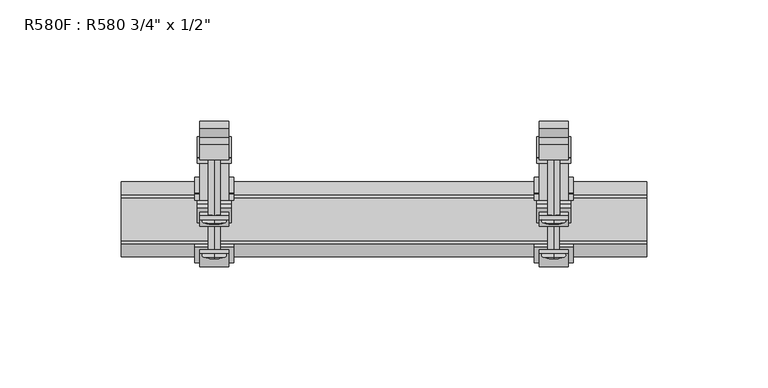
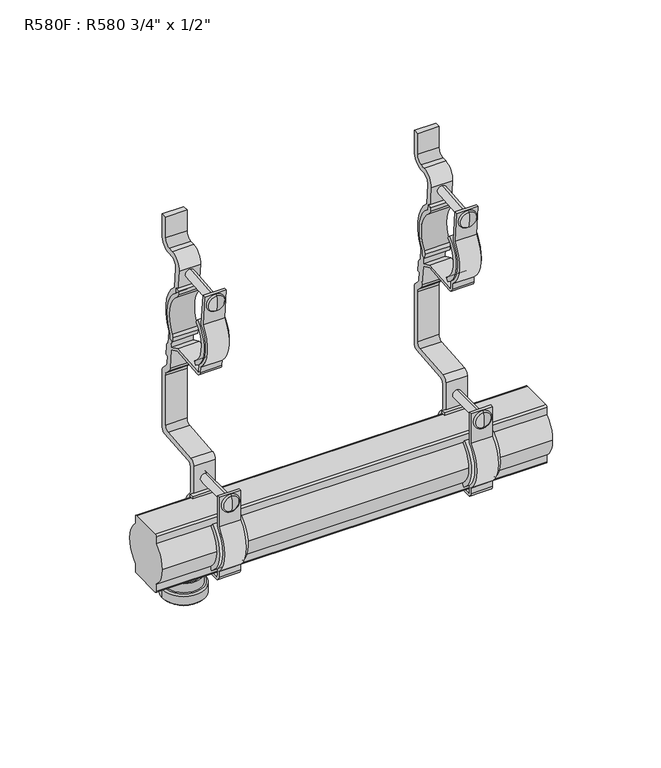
"""IFC4 building model written with IfcOpenShell, lengths in millimetres: proxy geometry."""

from ifc_helpers import new_model, si_unit, point, frame, frame_2d, origin, place, context, project, spatial, polyline, circle_curve, ellipse_curve, trimmed, segment, composite_curve, outline, extrude, source, transform, mapped, element, save
from ifc_brep_helpers import plane_surface, cylinder_surface, revolved_surface, advanced_brep


def proxy_4e90085c(model_context):
    return source(origin(), model_context, "Body", "SolidModel", [
        extrude(outline(composite_curve([segment(trimmed(circle_curve(frame_2d((-6.9879586, 204.5629312)), 6.9879586), [point((0.0, 204.5629312))], [point((-6.535493, 197.5896363))], False, "CARTESIAN"), True, "CONTINUOUS"), segment(polyline([(-6.535493, 197.5896363), (-9.1616314, 197.419238)]), True, "CONTINUOUS"), segment(trimmed(circle_curve(frame_2d((-8.8902256, 193.2363952)), 4.1916388), [point((-9.1616314, 197.419238))], [point((-13.0659051, 192.8709684))], True, "CARTESIAN"), True, "CONTINUOUS"), segment(polyline([(-13.0659051, 192.8709684), (-12.0275494, 181.0058252)]), True, "CONTINUOUS"), segment(trimmed(circle_curve(frame_2d((-26.7255965, 163.0222089)), 23.2259131), [point((-12.0275494, 181.0058252))], [point((-6.4338194, 151.7223495))], False, "CARTESIAN"), True, "CONTINUOUS"), segment(polyline([(-6.4338194, 151.7223495), (-5.7651578, 144.078057)]), True, "CONTINUOUS"), segment(trimmed(circle_curve(frame_2d((-6.6108887, 141.6599746)), 2.5617149), [point((-5.7651578, 144.078057))], [point((-4.0589183, 141.8832006))], False, "CARTESIAN"), True, "CONTINUOUS"), segment(polyline([(-4.0589183, 141.8832006), (-3.5825237, 136.4369491), (-5.0852766, 136.3055003), (-4.7104793, 132.0207317)]), True, "CONTINUOUS"), segment(trimmed(circle_curve(frame_2d((-1.5015536, 132.3014229)), 3.2211785), [point((-4.7104793, 132.0207317))], [point((-3.7792686, 130.0237034))], True, "CARTESIAN"), True, "CONTINUOUS"), segment(polyline([(-3.7792686, 130.0237034), (-0.7460042, 126.990445)]), True, "CONTINUOUS"), segment(trimmed(circle_curve(frame_2d((-2.5470116, 125.189434)), 2.5470116), [point((-0.7460042, 126.990445))], [point((0.0, 125.189434))], False, "CARTESIAN"), True, "CONTINUOUS"), segment(polyline([(0.0, 125.189434), (0.0, 91.7002427)]), True, "CONTINUOUS"), segment(trimmed(circle_curve(frame_2d((-2.7586202, 91.7002427)), 2.7586202), [point((0.0, 91.7002427))], [point((-2.5181898, 88.95212))], False, "CARTESIAN"), True, "CONTINUOUS"), segment(polyline([(-2.5181898, 88.95212), (-24.789201, 87.0036529)]), True, "CONTINUOUS"), segment(trimmed(circle_curve(frame_2d((-24.5318395, 84.0620069)), 2.9528827), [point((-24.789201, 87.0036529))], [point((-27.4847222, 84.0620069))], True, "CARTESIAN"), True, "CONTINUOUS"), segment(polyline([(-27.4847222, 84.0620069), (-27.4847222, 69.8127523)]), True, "CONTINUOUS"), segment(trimmed(circle_curve(frame_2d((-43.7833112, 52.8226819)), 23.5437146), [point((-27.4847222, 69.8127523))], [point((-24.0486111, 39.9833631))], False, "CARTESIAN"), True, "CONTINUOUS"), segment(polyline([(-24.0486111, 39.9833631), (-24.0486111, 32.0805444)]), True, "CONTINUOUS"), segment(trimmed(circle_curve(frame_2d((-25.1182348, 29.7387292)), 2.5745278), [point((-24.0486111, 32.0805444))], [point((-22.543707, 29.7387292))], False, "CARTESIAN"), True, "CONTINUOUS"), segment(polyline([(-22.543707, 29.7387292), (-22.543707, 24.2798441), (-24.0486111, 24.2798441)]), True, "CONTINUOUS"), segment(trimmed(circle_curve(frame_2d((-20.0761281, 24.2798441)), 3.972483), [point((-24.0486111, 24.2798441))], [point((-20.4220576, 20.3224518))], True, "CARTESIAN"), True, "CONTINUOUS"), segment(polyline([(-20.4220576, 20.3224518), (-6.318552, 19.0896151)]), True, "CONTINUOUS"), segment(trimmed(circle_curve(frame_2d((-6.9212656, 12.1946421)), 6.9212656), [point((-6.318552, 19.0896151))], [point((0.0, 12.1946421))], False, "CARTESIAN"), True, "CONTINUOUS"), segment(polyline([(0.0, 12.1946421), (0.0, 0.0), (-3.0055556, 0.0), (-3.0055556, 12.0395913)]), True, "CONTINUOUS"), segment(trimmed(circle_curve(frame_2d((-7.0901342, 12.0395913)), 4.0845787), [point((-3.0055556, 12.0395913))], [point((-6.7346171, 16.1086687))], True, "CARTESIAN"), True, "CONTINUOUS"), segment(polyline([(-6.7346171, 16.1086687), (-20.8046731, 17.3379757)]), True, "CONTINUOUS"), segment(trimmed(circle_curve(frame_2d((-20.1899309, 24.3740184)), 7.0628469), [point((-20.8046731, 17.3379757))], [point((-27.2527778, 24.3740184))], False, "CARTESIAN"), True, "CONTINUOUS"), segment(polyline([(-27.2527778, 24.3740184), (-27.2527778, 30.3859183), (-33.1679033, 33.7985986), (-51.9876627, 33.7985986)]), True, "CONTINUOUS"), segment(trimmed(circle_curve(frame_2d((-51.9876627, 36.4192679)), 2.6206693), [point((-51.9876627, 33.7985986))], [point((-54.6083319, 36.4192679))], False, "CARTESIAN"), True, "CONTINUOUS"), segment(polyline([(-54.6083319, 36.4192679), (-54.6083319, 39.6866429)]), True, "CONTINUOUS"), segment(trimmed(circle_curve(frame_2d((-41.7461087, 52.8038888)), 18.3711438), [point((-54.6083319, 39.6866429))], [point((-54.6083319, 65.9211347))], False, "CARTESIAN"), True, "CONTINUOUS"), segment(polyline([(-54.6083319, 65.9211347), (-54.6083319, 83.3749875), (-53.1055542, 83.3749875), (-53.1055542, 65.3949594)]), True, "CONTINUOUS"), segment(trimmed(circle_curve(frame_2d((-41.3574689, 52.8038888)), 17.2207017), [point((-53.1055542, 65.3949594))], [point((-53.1055542, 40.2128181))], True, "CARTESIAN"), True, "CONTINUOUS"), segment(polyline([(-53.1055542, 40.2128181), (-53.1055542, 36.4458128)]), True, "CONTINUOUS"), segment(trimmed(circle_curve(frame_2d((-51.9597414, 36.4458128)), 1.1458128), [point((-53.1055542, 36.4458128))], [point((-51.9597414, 35.3))], True, "CARTESIAN"), True, "CONTINUOUS"), segment(polyline([(-51.9597414, 35.3), (-32.7650242, 35.3), (-27.2527778, 32.1197572), (-27.2527778, 40.7465527)]), True, "CONTINUOUS"), segment(trimmed(circle_curve(frame_2d((-43.4814095, 52.8363738)), 20.2369035), [point((-27.2527778, 40.7465527))], [point((-30.2583333, 68.155725))], True, "CARTESIAN"), True, "CONTINUOUS"), segment(polyline([(-30.2583333, 68.155725), (-30.2583333, 86.7608471)]), True, "CONTINUOUS"), segment(trimmed(circle_curve(frame_2d((-27.2222702, 86.7608471)), 3.0360631), [point((-30.2583333, 86.7608471))], [point((-27.4867903, 89.785365))], False, "CARTESIAN"), True, "CONTINUOUS"), segment(polyline([(-27.4867903, 89.785365), (-5.5546672, 91.7035179)]), True, "CONTINUOUS"), segment(trimmed(circle_curve(frame_2d((-5.7979581, 94.4853018)), 2.7924026), [point((-5.5546672, 91.7035179))], [point((-3.0055556, 94.4853018))], True, "CARTESIAN"), True, "CONTINUOUS"), segment(polyline([(-3.0055556, 94.4853018), (-3.0055556, 123.7752725)]), True, "CONTINUOUS"), segment(trimmed(circle_curve(frame_2d((-5.9589259, 123.7752725)), 2.9533703), [point((-3.0055556, 123.7752725))], [point((-3.8705756, 125.8636186))], True, "CARTESIAN"), True, "CONTINUOUS"), segment(polyline([(-3.8705756, 125.8636186), (-6.6886958, 128.6817443)]), True, "CONTINUOUS"), segment(trimmed(circle_curve(frame_2d((-4.3945951, 130.9758406)), 3.2443452), [point((-6.6886958, 128.6817443))], [point((-7.6265958, 130.6930906))], False, "CARTESIAN"), True, "CONTINUOUS"), segment(polyline([(-7.6265958, 130.6930906), (-8.6174181, 142.0187791), (-14.9952465, 144.9926054), (-33.7906951, 143.34888)]), True, "CONTINUOUS"), segment(trimmed(circle_curve(frame_2d((-34.0157037, 145.9217782)), 2.5827184), [point((-33.7906951, 143.34888))], [point((-36.5885872, 145.6966013))], False, "CARTESIAN"), True, "CONTINUOUS"), segment(polyline([(-36.5885872, 145.6966013), (-36.8737941, 148.9553907)]), True, "CONTINUOUS"), segment(trimmed(circle_curve(frame_2d((-24.8820369, 163.2396515)), 18.6505321), [point((-36.8737941, 148.9553907))], [point((-39.1667816, 175.2308323))], False, "CARTESIAN"), True, "CONTINUOUS"), segment(polyline([(-39.1667816, 175.2308323), (-40.6790521, 192.514192), (-39.1817277, 192.6452058), (-37.6135439, 174.7208888)]), True, "CONTINUOUS"), segment(trimmed(circle_curve(frame_2d((-24.8569829, 163.1914252)), 17.1947195), [point((-37.6135439, 174.7208888))], [point((-35.4138424, 149.6189863))], True, "CARTESIAN"), True, "CONTINUOUS"), segment(polyline([(-35.4138424, 149.6189863), (-35.0864482, 145.8341692)]), True, "CONTINUOUS"), segment(trimmed(circle_curve(frame_2d((-34.0056853, 145.9276573)), 1.0847988), [point((-35.0864482, 145.8341692))], [point((-33.911106, 144.8469894))], True, "CARTESIAN"), True, "CONTINUOUS"), segment(polyline([(-33.911106, 144.8469894), (-14.6888357, 146.5293087), (-8.7706037, 143.769781), (-9.5393713, 152.5572516)]), True, "CONTINUOUS"), segment(trimmed(circle_curve(frame_2d((-26.6434336, 163.2197176)), 20.155325), [point((-9.5393713, 152.5572516))], [point((-14.9229936, 179.616925))], True, "CARTESIAN"), True, "CONTINUOUS"), segment(polyline([(-14.9229936, 179.616925), (-16.0683895, 192.692549)]), True, "CONTINUOUS"), segment(trimmed(circle_curve(frame_2d((-9.0001363, 193.3117124)), 7.0953201), [point((-16.0683895, 192.692549))], [point((-9.5177053, 200.3881303))], False, "CARTESIAN"), True, "CONTINUOUS"), segment(polyline([(-9.5177053, 200.3881303), (-6.606157, 200.6010809)]), True, "CONTINUOUS"), segment(trimmed(circle_curve(frame_2d((-6.8894696, 204.4746479)), 3.883914), [point((-6.606157, 200.6010809))], [point((-3.0055556, 204.4746479))], True, "CARTESIAN"), True, "CONTINUOUS"), segment(polyline([(-3.0055556, 204.4746479), (-3.0055556, 216.7194361), (0.0, 216.7194361), (0.0, 204.5629312)]), True, "CONTINUOUS")], self_intersect=False)), frame((151.7, 0.0, 0.0), z_axis=(1.0, 0.0, 0.0), x_axis=(0.0, 1.0, 0.0)), (0.0, 0.0, 1.0), 12.0),
        advanced_brep(
        [(157.7, -8.1607243, 187.8478573), (157.7, -8.594888, 192.8098059), (157.7, -8.3778062, 190.3288316), (157.7, -40.0267871, 185.0596201), (157.7, -40.4609509, 190.0215687), (157.7, -39.8348107, 182.8655697), (157.7, -40.6529273, 192.2156191), (157.7, -41.3968672, 182.7288919), (157.7, -42.2149839, 192.0789412), (157.7, -42.5174833, 187.3416562)],
        [
            (0, 1, circle_curve(frame((157.7, -8.3778062, 190.3288316), z_axis=(0.0, 0.9961938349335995, 0.08716560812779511), x_axis=(0.0, -0.08716560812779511, 0.9961938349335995)), 2.4904534)),
            (1, 2),
            (2, 0),
            (1, 0, circle_curve(frame((157.7, -8.3778062, 190.3288316), z_axis=(0.0, 0.9961938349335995, 0.08716560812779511), x_axis=(0.0, -0.08716560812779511, 0.9961938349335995)), 2.4904534)),
            (3, 4, circle_curve(frame((157.7, -40.243869, 187.5405944), z_axis=(0.0, 0.9961938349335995, 0.08716560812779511), x_axis=(0.0, -0.08716560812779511, 0.9961938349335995)), 2.4904534)),
            (4, 1),
            (0, 3),
            (4, 3, circle_curve(frame((157.7, -40.243869, 187.5405944), z_axis=(0.0, 0.9961938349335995, 0.08716560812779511), x_axis=(0.0, -0.08716560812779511, 0.9961938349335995)), 2.4904534)),
            (5, 6, circle_curve(frame((157.7, -40.243869, 187.5405944), z_axis=(0.0, 0.9961938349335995, 0.08716560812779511), x_axis=(0.0, -0.08716560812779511, 0.9961938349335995)), 4.6928866)),
            (6, 4),
            (3, 5),
            (6, 5, circle_curve(frame((157.7, -40.243869, 187.5405944), z_axis=(0.0, 0.9961938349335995, 0.08716560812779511), x_axis=(0.0, -0.08716560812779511, 0.9961938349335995)), 4.6928866)),
            (7, 8, circle_curve(frame((157.7, -41.8059255, 187.4039166), z_axis=(0.0, 0.9961938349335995, 0.08716560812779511), x_axis=(0.0, -0.08716560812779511, 0.9961938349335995)), 4.6928866)),
            (8, 6, circle_curve(frame((157.7, -41.3687132, 191.4016409), z_axis=(-1.0, 0.0, 0.0), x_axis=(0.0, 1.0, 0.0)), 1.0839326)),
            (5, 7, circle_curve(frame((157.7, -40.6810814, 183.5428701), z_axis=(-1.0, 0.0, 0.0), x_axis=(0.0, 0.9848043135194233, 0.17366768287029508)), 1.0839326)),
            (8, 7, circle_curve(frame((157.7, -41.8059255, 187.4039166), z_axis=(0.0, 0.9961938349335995, 0.08716560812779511), x_axis=(0.0, -0.08716560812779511, 0.9961938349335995)), 4.6928866)),
            (9, 8, circle_curve(frame((157.7, -33.7302276, 189.1588465), z_axis=(-1.0, 0.0, 0.0), x_axis=(0.0, 1.0, 0.0)), 8.9731847)),
            (7, 9, circle_curve(frame((157.7, -33.5481687, 187.0781418), z_axis=(-1.0, 0.0, 0.0), x_axis=(0.0, 0.9848043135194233, 0.17366768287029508)), 8.9731847)),
        ],
        [
            plane_surface(frame((157.7, -8.3778062, 190.3288316), z_axis=(0.0, 0.9961938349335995, 0.08716560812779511), x_axis=(0.0, -0.08716560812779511, 0.9961938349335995))),
            cylinder_surface(frame((157.7, -42.5174833, 187.3416562), z_axis=(0.0, -0.9961938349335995, -0.08716560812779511), x_axis=(0.0, -0.08716560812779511, 0.9961938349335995)), 2.4904534),
            plane_surface(frame((157.7, -40.243869, 187.5405944), z_axis=(0.0, 0.9961938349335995, 0.08716560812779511), x_axis=(0.0, -0.08716560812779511, 0.9961938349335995))),
            revolved_surface(trimmed(ellipse_curve(frame((157.7, -41.3687132, 191.4016409), z_axis=(1.0, 0.0, 0.0), x_axis=(0.0, 1.0, 0.0)), 1.0839326, 1.0839326), [point((157.7, -40.6529273, 192.2156191))], [point((157.7, -42.2149839, 192.0789412))], True, "CARTESIAN"), (157.7, -42.5174833, 187.3416562), (0.0, -0.9961938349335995, -0.08716560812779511)),
            revolved_surface(trimmed(ellipse_curve(frame((157.7, -33.7302276, 189.1588465), z_axis=(1.0, 0.0, 0.0), x_axis=(0.0, 1.0, 0.0)), 8.9731847, 8.9731847), [point((157.7, -42.2149839, 192.0789412))], [point((157.7, -42.5174833, 187.3416562))], True, "CARTESIAN"), (157.7, -42.5174833, 187.3416562), (0.0, -0.9961938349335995, -0.08716560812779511)),
        ],
        [
            (0, [[1, 2, 3]]),
            (0, [[4, -3, -2]]),
            (1, [[5, 6, -1, 7]]),
            (1, [[8, -7, -4, -6]]),
            (2, [[9, 10, -5, 11]]),
            (2, [[12, -11, -8, -10]]),
            (3, [[13, 14, -9, 15]]),
            (3, [[16, -15, -12, -14]]),
            (4, [[17, -13, 18]]),
            (4, [[-18, -16, -17]]),
        ],
    ),
        advanced_brep(
        [(157.7, -22.5663136, 75.9783108), (157.7, -22.5663136, 80.7883475), (157.7, -22.5663136, 78.3833292), (157.7, -54.6083319, 75.9783108), (157.7, -54.6083319, 80.7883475), (157.7, -54.6083319, 73.9756889), (157.7, -54.6083319, 82.7909695), (157.7, -56.172824, 73.9756889), (157.7, -56.172824, 82.7909695), (157.7, -56.8709256, 78.3833292)],
        [
            (0, 1, circle_curve(frame((157.7, -22.5663136, 78.3833292), z_axis=(0.0, 1.0, 0.0), x_axis=(0.0, 0.0, 1.0)), 2.4050184)),
            (1, 2),
            (2, 0),
            (1, 0, circle_curve(frame((157.7, -22.5663136, 78.3833292), z_axis=(0.0, 1.0, 0.0), x_axis=(0.0, 0.0, 1.0)), 2.4050184)),
            (3, 4, circle_curve(frame((157.7, -54.6083319, 78.3833292), z_axis=(0.0, 1.0, 0.0), x_axis=(0.0, 0.0, 1.0)), 2.4050184)),
            (4, 1),
            (0, 3),
            (4, 3, circle_curve(frame((157.7, -54.6083319, 78.3833292), z_axis=(0.0, 1.0, 0.0), x_axis=(0.0, 0.0, 1.0)), 2.4050184)),
            (5, 6, circle_curve(frame((157.7, -54.6083319, 78.3833292), z_axis=(0.0, 1.0, 0.0), x_axis=(0.0, 0.0, 1.0)), 4.4076403)),
            (6, 4),
            (3, 5),
            (6, 5, circle_curve(frame((157.7, -54.6083319, 78.3833292), z_axis=(0.0, 1.0, 0.0), x_axis=(0.0, 0.0, 1.0)), 4.4076403)),
            (7, 8, circle_curve(frame((157.7, -56.172824, 78.3833292), z_axis=(0.0, 1.0, 0.0), x_axis=(0.0, 0.0, 1.0)), 4.4076403)),
            (8, 6, circle_curve(frame((157.7, -55.390578, 82.5376382), z_axis=(-1.0, 0.0, 0.0), x_axis=(0.0, 1.0, 0.0)), 0.8222442)),
            (5, 7, circle_curve(frame((157.7, -55.390578, 74.2290201), z_axis=(-1.0, 0.0, 0.0), x_axis=(0.0, 1.0, 0.0)), 0.8222442)),
            (8, 7, circle_curve(frame((157.7, -56.172824, 78.3833292), z_axis=(0.0, 1.0, 0.0), x_axis=(0.0, 0.0, 1.0)), 4.4076403)),
            (9, 8, circle_curve(frame((157.7, -42.5198982, 78.3694541), z_axis=(-1.0, 0.0, 0.0), x_axis=(0.0, 1.0, 0.0)), 14.3510341)),
            (7, 9, circle_curve(frame((157.7, -42.5198982, 78.3972042), z_axis=(-1.0, 0.0, 0.0), x_axis=(0.0, 1.0, 0.0)), 14.3510341)),
        ],
        [
            plane_surface(frame((157.7, -22.5663136, 78.3833292), z_axis=(0.0, 1.0, 0.0), x_axis=(0.0, 0.0, 1.0))),
            cylinder_surface(frame((157.7, -57.182419, 78.3833292), z_axis=(0.0, -1.0, 0.0), x_axis=(0.0, 0.0, 1.0)), 2.4050184),
            plane_surface(frame((157.7, -54.6083319, 78.3833292), z_axis=(0.0, 1.0, 0.0), x_axis=(0.0, 0.0, 1.0))),
            revolved_surface(trimmed(ellipse_curve(frame((157.7, -55.390578, 82.5376382), z_axis=(1.0, 0.0, 0.0), x_axis=(0.0, 1.0, 0.0)), 0.8222442, 0.8222442), [point((157.7, -54.6083319, 82.7909695))], [point((157.7, -56.172824, 82.7909695))], True, "CARTESIAN"), (157.7, -57.182419, 78.3833292), (0.0, -1.0, 0.0)),
            revolved_surface(trimmed(ellipse_curve(frame((157.7, -42.5198982, 78.3694541), z_axis=(1.0, 0.0, 0.0), x_axis=(0.0, 1.0, 0.0)), 14.3510341, 14.3510341), [point((157.7, -56.172824, 82.7909695))], [point((157.7, -56.8709256, 78.3833292))], True, "CARTESIAN"), (157.7, -57.182419, 78.3833292), (0.0, -1.0, 0.0)),
        ],
        [
            (0, [[1, 2, 3]]),
            (0, [[4, -3, -2]]),
            (1, [[5, 6, -1, 7]]),
            (1, [[8, -7, -4, -6]]),
            (2, [[9, 10, -5, 11]]),
            (2, [[12, -11, -8, -10]]),
            (3, [[13, 14, -9, 15]]),
            (3, [[16, -15, -12, -14]]),
            (4, [[17, -13, 18]]),
            (4, [[-18, -16, -17]]),
        ],
    ),
        extrude(outline(composite_curve([segment(polyline([(-49.7837445, 40.6617165), (-51.109565, 38.7158506)]), True, "CONTINUOUS"), segment(trimmed(circle_curve(frame_2d((-41.4924197, 52.8367565)), 17.084773), [point((-51.109565, 38.7158506))], [point((-51.8694125, 66.4090624))], False, "CARTESIAN"), True, "CONTINUOUS"), segment(polyline([(-51.8694125, 66.4090624), (-50.4393, 64.5394956)]), True, "CONTINUOUS"), segment(trimmed(circle_curve(frame_2d((-41.4878354, 52.8373662)), 14.7332465), [point((-50.4393, 64.5394956))], [point((-49.7837445, 40.6617165))], True, "CARTESIAN"), True, "CONTINUOUS")], self_intersect=False)), frame((149.7, 0.0, 0.0), z_axis=(1.0, 0.0, 0.0), x_axis=(0.0, 1.0, 0.0)), (0.0, 0.0, 1.0), 16.0),
        extrude(outline(composite_curve([segment(trimmed(circle_curve(frame_2d((-25.3074567, 39.8932689)), 2.0748989), [point((-26.9975539, 41.0969204))], [point((-27.3823556, 39.8932689))], True, "CARTESIAN"), True, "CONTINUOUS"), segment(polyline([(-27.3823556, 39.8932689), (-27.3823556, 37.5825553), (-29.7379111, 37.5825553), (-29.7379111, 39.9273542)]), True, "CONTINUOUS"), segment(trimmed(circle_curve(frame_2d((-27.0268933, 39.9273542)), 2.7110178), [point((-29.7379111, 39.9273542))], [point((-29.0412843, 41.7416989))], False, "CARTESIAN"), True, "CONTINUOUS"), segment(trimmed(circle_curve(frame_2d((-43.6122723, 52.8887451)), 18.3458532), [point((-29.0412843, 41.7416989))], [point((-31.8255932, 66.9473554))], True, "CARTESIAN"), True, "CONTINUOUS"), segment(trimmed(circle_curve(frame_2d((-30.4108016, 68.634854)), 2.2021096), [point((-31.8255932, 66.9473554))], [point((-32.6129111, 68.634854))], False, "CARTESIAN"), True, "CONTINUOUS"), segment(polyline([(-32.6129111, 68.634854), (-32.6129111, 71.1464456), (-30.2583333, 71.1464456), (-30.2583333, 69.1297192)]), True, "CONTINUOUS"), segment(trimmed(circle_curve(frame_2d((-28.0633419, 69.1297192)), 2.1949914), [point((-30.2583333, 69.1297192))], [point((-29.5720208, 67.5353931))], True, "CARTESIAN"), True, "CONTINUOUS"), segment(trimmed(circle_curve(frame_2d((-43.4814095, 52.8363738)), 20.2369035), [point((-29.5720208, 67.5353931))], [point((-26.9975539, 41.0969204))], False, "CARTESIAN"), True, "CONTINUOUS")], self_intersect=False)), frame((149.7, 0.0, 0.0), z_axis=(1.0, 0.0, 0.0), x_axis=(0.0, 1.0, 0.0)), (0.0, 0.0, 1.0), 16.0),
        extrude(outline(composite_curve([segment(polyline([(-32.8462445, 150.7908873), (-34.1020296, 148.8017664)]), True, "CONTINUOUS"), segment(trimmed(circle_curve(frame_2d((-24.9960648, 163.2253041)), 17.0574627), [point((-34.1020296, 148.8017664))], [point((-35.7752816, 176.4451951))], False, "CARTESIAN"), True, "CONTINUOUS"), segment(polyline([(-35.7752816, 176.4451951), (-34.2726334, 174.6353303)]), True, "CONTINUOUS"), segment(trimmed(circle_curve(frame_2d((-24.8087698, 163.2365791)), 14.8154056), [point((-34.2726334, 174.6353303))], [point((-32.8462445, 150.7908873))], True, "CARTESIAN"), True, "CONTINUOUS")], self_intersect=False)), frame((150.7, 0.0, 0.0), z_axis=(1.0, 0.0, 0.0), x_axis=(0.0, 1.0, 0.0)), (0.0, 0.0, 1.0), 14.0),
        extrude(outline(composite_curve([segment(polyline([(-9.5393713, 152.5572516), (-9.3737381, 149.3967813), (-11.744171, 149.1893953), (-11.9389044, 151.4152075)]), True, "CONTINUOUS"), segment(trimmed(circle_curve(frame_2d((-8.8230465, 151.6878097)), 3.1277599), [point((-11.9389044, 151.4152075))], [point((-11.4382785, 153.4034565))], False, "CARTESIAN"), True, "CONTINUOUS"), segment(trimmed(circle_curve(frame_2d((-26.4786219, 163.2702359)), 17.98792), [point((-11.4382785, 153.4034565))], [point((-16.1230463, 177.9783058))], True, "CARTESIAN"), True, "CONTINUOUS"), segment(trimmed(circle_curve(frame_2d((-14.4859563, 180.303472)), 2.8436704), [point((-16.1230463, 177.9783058))], [point((-17.3187789, 180.0553229))], False, "CARTESIAN"), True, "CONTINUOUS"), segment(polyline([(-17.3187789, 180.0553229), (-17.522158, 182.3770604), (-15.1827267, 182.5819895), (-14.9229936, 179.616925)]), True, "CONTINUOUS"), segment(trimmed(circle_curve(frame_2d((-26.6434336, 163.2197176)), 20.155325), [point((-14.9229936, 179.616925))], [point((-9.5393713, 152.5572516))], False, "CARTESIAN"), True, "CONTINUOUS")], self_intersect=False)), frame((150.7, 0.0, 0.0), z_axis=(1.0, 0.0, 0.0), x_axis=(0.0, 1.0, 0.0)), (0.0, 0.0, 1.0), 14.0),
        extrude(outline(composite_curve([segment(trimmed(circle_curve(frame_2d((-6.9879586, 204.5629312)), 6.9879586), [point((0.0, 204.5629312))], [point((-6.535493, 197.5896363))], False, "CARTESIAN"), True, "CONTINUOUS"), segment(polyline([(-6.535493, 197.5896363), (-9.1616314, 197.419238)]), True, "CONTINUOUS"), segment(trimmed(circle_curve(frame_2d((-8.8902256, 193.2363952)), 4.1916388), [point((-9.1616314, 197.419238))], [point((-13.0659051, 192.8709684))], True, "CARTESIAN"), True, "CONTINUOUS"), segment(polyline([(-13.0659051, 192.8709684), (-12.0275494, 181.0058252)]), True, "CONTINUOUS"), segment(trimmed(circle_curve(frame_2d((-26.7255965, 163.0222089)), 23.2259131), [point((-12.0275494, 181.0058252))], [point((-6.4338194, 151.7223495))], False, "CARTESIAN"), True, "CONTINUOUS"), segment(polyline([(-6.4338194, 151.7223495), (-5.7651578, 144.078057)]), True, "CONTINUOUS"), segment(trimmed(circle_curve(frame_2d((-6.6108887, 141.6599746)), 2.5617149), [point((-5.7651578, 144.078057))], [point((-4.0589183, 141.8832006))], False, "CARTESIAN"), True, "CONTINUOUS"), segment(polyline([(-4.0589183, 141.8832006), (-3.5825237, 136.4369491), (-5.0852766, 136.3055003), (-4.7104793, 132.0207317)]), True, "CONTINUOUS"), segment(trimmed(circle_curve(frame_2d((-1.5015536, 132.3014229)), 3.2211785), [point((-4.7104793, 132.0207317))], [point((-3.7792686, 130.0237034))], True, "CARTESIAN"), True, "CONTINUOUS"), segment(polyline([(-3.7792686, 130.0237034), (-0.7460042, 126.990445)]), True, "CONTINUOUS"), segment(trimmed(circle_curve(frame_2d((-2.5470116, 125.189434)), 2.5470116), [point((-0.7460042, 126.990445))], [point((0.0, 125.189434))], False, "CARTESIAN"), True, "CONTINUOUS"), segment(polyline([(0.0, 125.189434), (0.0, 91.7002427)]), True, "CONTINUOUS"), segment(trimmed(circle_curve(frame_2d((-2.7586202, 91.7002427)), 2.7586202), [point((0.0, 91.7002427))], [point((-2.5181898, 88.95212))], False, "CARTESIAN"), True, "CONTINUOUS"), segment(polyline([(-2.5181898, 88.95212), (-24.789201, 87.0036529)]), True, "CONTINUOUS"), segment(trimmed(circle_curve(frame_2d((-24.5318395, 84.0620069)), 2.9528827), [point((-24.789201, 87.0036529))], [point((-27.4847222, 84.0620069))], True, "CARTESIAN"), True, "CONTINUOUS"), segment(polyline([(-27.4847222, 84.0620069), (-27.4847222, 69.8127523)]), True, "CONTINUOUS"), segment(trimmed(circle_curve(frame_2d((-43.7833112, 52.8226819)), 23.5437146), [point((-27.4847222, 69.8127523))], [point((-24.0486111, 39.9833631))], False, "CARTESIAN"), True, "CONTINUOUS"), segment(polyline([(-24.0486111, 39.9833631), (-24.0486111, 32.0805444)]), True, "CONTINUOUS"), segment(trimmed(circle_curve(frame_2d((-25.1182348, 29.7387292)), 2.5745278), [point((-24.0486111, 32.0805444))], [point((-22.543707, 29.7387292))], False, "CARTESIAN"), True, "CONTINUOUS"), segment(polyline([(-22.543707, 29.7387292), (-22.543707, 24.2798441), (-24.0486111, 24.2798441)]), True, "CONTINUOUS"), segment(trimmed(circle_curve(frame_2d((-20.0761281, 24.2798441)), 3.972483), [point((-24.0486111, 24.2798441))], [point((-20.4220576, 20.3224518))], True, "CARTESIAN"), True, "CONTINUOUS"), segment(polyline([(-20.4220576, 20.3224518), (-6.318552, 19.0896151)]), True, "CONTINUOUS"), segment(trimmed(circle_curve(frame_2d((-6.9212656, 12.1946421)), 6.9212656), [point((-6.318552, 19.0896151))], [point((0.0, 12.1946421))], False, "CARTESIAN"), True, "CONTINUOUS"), segment(polyline([(0.0, 12.1946421), (0.0, 0.0), (-3.0055556, 0.0), (-3.0055556, 12.0395913)]), True, "CONTINUOUS"), segment(trimmed(circle_curve(frame_2d((-7.0901342, 12.0395913)), 4.0845787), [point((-3.0055556, 12.0395913))], [point((-6.7346171, 16.1086687))], True, "CARTESIAN"), True, "CONTINUOUS"), segment(polyline([(-6.7346171, 16.1086687), (-20.8046731, 17.3379757)]), True, "CONTINUOUS"), segment(trimmed(circle_curve(frame_2d((-20.1899309, 24.3740184)), 7.0628469), [point((-20.8046731, 17.3379757))], [point((-27.2527778, 24.3740184))], False, "CARTESIAN"), True, "CONTINUOUS"), segment(polyline([(-27.2527778, 24.3740184), (-27.2527778, 30.3859183), (-33.1679033, 33.7985986), (-51.9876627, 33.7985986)]), True, "CONTINUOUS"), segment(trimmed(circle_curve(frame_2d((-51.9876627, 36.4192679)), 2.6206693), [point((-51.9876627, 33.7985986))], [point((-54.6083319, 36.4192679))], False, "CARTESIAN"), True, "CONTINUOUS"), segment(polyline([(-54.6083319, 36.4192679), (-54.6083319, 39.6866429)]), True, "CONTINUOUS"), segment(trimmed(circle_curve(frame_2d((-41.7461087, 52.8038888)), 18.3711438), [point((-54.6083319, 39.6866429))], [point((-54.6083319, 65.9211347))], False, "CARTESIAN"), True, "CONTINUOUS"), segment(polyline([(-54.6083319, 65.9211347), (-54.6083319, 83.3749875), (-53.1055542, 83.3749875), (-53.1055542, 65.3949594)]), True, "CONTINUOUS"), segment(trimmed(circle_curve(frame_2d((-41.3574689, 52.8038888)), 17.2207017), [point((-53.1055542, 65.3949594))], [point((-53.1055542, 40.2128181))], True, "CARTESIAN"), True, "CONTINUOUS"), segment(polyline([(-53.1055542, 40.2128181), (-53.1055542, 36.4458128)]), True, "CONTINUOUS"), segment(trimmed(circle_curve(frame_2d((-51.9597414, 36.4458128)), 1.1458128), [point((-53.1055542, 36.4458128))], [point((-51.9597414, 35.3))], True, "CARTESIAN"), True, "CONTINUOUS"), segment(polyline([(-51.9597414, 35.3), (-32.7650242, 35.3), (-27.2527778, 32.1197572), (-27.2527778, 40.7465527)]), True, "CONTINUOUS"), segment(trimmed(circle_curve(frame_2d((-43.4814095, 52.8363738)), 20.2369035), [point((-27.2527778, 40.7465527))], [point((-30.2583333, 68.155725))], True, "CARTESIAN"), True, "CONTINUOUS"), segment(polyline([(-30.2583333, 68.155725), (-30.2583333, 86.7608471)]), True, "CONTINUOUS"), segment(trimmed(circle_curve(frame_2d((-27.2222702, 86.7608471)), 3.0360631), [point((-30.2583333, 86.7608471))], [point((-27.4867903, 89.785365))], False, "CARTESIAN"), True, "CONTINUOUS"), segment(polyline([(-27.4867903, 89.785365), (-5.5546672, 91.7035179)]), True, "CONTINUOUS"), segment(trimmed(circle_curve(frame_2d((-5.7979581, 94.4853018)), 2.7924026), [point((-5.5546672, 91.7035179))], [point((-3.0055556, 94.4853018))], True, "CARTESIAN"), True, "CONTINUOUS"), segment(polyline([(-3.0055556, 94.4853018), (-3.0055556, 123.7752725)]), True, "CONTINUOUS"), segment(trimmed(circle_curve(frame_2d((-5.9589259, 123.7752725)), 2.9533703), [point((-3.0055556, 123.7752725))], [point((-3.8705756, 125.8636186))], True, "CARTESIAN"), True, "CONTINUOUS"), segment(polyline([(-3.8705756, 125.8636186), (-6.6886958, 128.6817443)]), True, "CONTINUOUS"), segment(trimmed(circle_curve(frame_2d((-4.3945951, 130.9758406)), 3.2443452), [point((-6.6886958, 128.6817443))], [point((-7.6265958, 130.6930906))], False, "CARTESIAN"), True, "CONTINUOUS"), segment(polyline([(-7.6265958, 130.6930906), (-8.6174181, 142.0187791), (-14.9952465, 144.9926054), (-33.7906951, 143.34888)]), True, "CONTINUOUS"), segment(trimmed(circle_curve(frame_2d((-34.0157037, 145.9217782)), 2.5827184), [point((-33.7906951, 143.34888))], [point((-36.5885872, 145.6966013))], False, "CARTESIAN"), True, "CONTINUOUS"), segment(polyline([(-36.5885872, 145.6966013), (-36.8737941, 148.9553907)]), True, "CONTINUOUS"), segment(trimmed(circle_curve(frame_2d((-24.8820369, 163.2396515)), 18.6505321), [point((-36.8737941, 148.9553907))], [point((-39.1667816, 175.2308323))], False, "CARTESIAN"), True, "CONTINUOUS"), segment(polyline([(-39.1667816, 175.2308323), (-40.6790521, 192.514192), (-39.1817277, 192.6452058), (-37.6135439, 174.7208888)]), True, "CONTINUOUS"), segment(trimmed(circle_curve(frame_2d((-24.8569829, 163.1914252)), 17.1947195), [point((-37.6135439, 174.7208888))], [point((-35.4138424, 149.6189863))], True, "CARTESIAN"), True, "CONTINUOUS"), segment(polyline([(-35.4138424, 149.6189863), (-35.0864482, 145.8341692)]), True, "CONTINUOUS"), segment(trimmed(circle_curve(frame_2d((-34.0056853, 145.9276573)), 1.0847988), [point((-35.0864482, 145.8341692))], [point((-33.911106, 144.8469894))], True, "CARTESIAN"), True, "CONTINUOUS"), segment(polyline([(-33.911106, 144.8469894), (-14.6888357, 146.5293087), (-8.7706037, 143.769781), (-9.5393713, 152.5572516)]), True, "CONTINUOUS"), segment(trimmed(circle_curve(frame_2d((-26.6434336, 163.2197176)), 20.155325), [point((-9.5393713, 152.5572516))], [point((-14.9229936, 179.616925))], True, "CARTESIAN"), True, "CONTINUOUS"), segment(polyline([(-14.9229936, 179.616925), (-16.0683895, 192.692549)]), True, "CONTINUOUS"), segment(trimmed(circle_curve(frame_2d((-9.0001363, 193.3117124)), 7.0953201), [point((-16.0683895, 192.692549))], [point((-9.5177053, 200.3881303))], False, "CARTESIAN"), True, "CONTINUOUS"), segment(polyline([(-9.5177053, 200.3881303), (-6.606157, 200.6010809)]), True, "CONTINUOUS"), segment(trimmed(circle_curve(frame_2d((-6.8894696, 204.4746479)), 3.883914), [point((-6.606157, 200.6010809))], [point((-3.0055556, 204.4746479))], True, "CARTESIAN"), True, "CONTINUOUS"), segment(polyline([(-3.0055556, 204.4746479), (-3.0055556, 216.7194361), (0.0, 216.7194361), (0.0, 204.5629312)]), True, "CONTINUOUS")], self_intersect=False)), frame((11.5, 0.0, 0.0), z_axis=(1.0, 0.0, 0.0), x_axis=(0.0, 1.0, 0.0)), (0.0, 0.0, 1.0), 12.0),
        advanced_brep(
        [(17.5, -8.1607243, 187.8478573), (17.5, -8.594888, 192.8098059), (17.5, -8.3778062, 190.3288316), (17.5, -40.0267871, 185.0596201), (17.5, -40.4609509, 190.0215687), (17.5, -39.8348107, 182.8655697), (17.5, -40.6529273, 192.2156191), (17.5, -41.3968672, 182.7288919), (17.5, -42.2149839, 192.0789412), (17.5, -42.5174833, 187.3416562)],
        [
            (0, 1, circle_curve(frame((17.5, -8.3778062, 190.3288316), z_axis=(0.0, 0.9961938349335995, 0.08716560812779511), x_axis=(0.0, -0.08716560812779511, 0.9961938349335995)), 2.4904534)),
            (1, 2),
            (2, 0),
            (1, 0, circle_curve(frame((17.5, -8.3778062, 190.3288316), z_axis=(0.0, 0.9961938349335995, 0.08716560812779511), x_axis=(0.0, -0.08716560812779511, 0.9961938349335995)), 2.4904534)),
            (3, 4, circle_curve(frame((17.5, -40.243869, 187.5405944), z_axis=(0.0, 0.9961938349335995, 0.08716560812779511), x_axis=(0.0, -0.08716560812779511, 0.9961938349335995)), 2.4904534)),
            (4, 1),
            (0, 3),
            (4, 3, circle_curve(frame((17.5, -40.243869, 187.5405944), z_axis=(0.0, 0.9961938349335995, 0.08716560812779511), x_axis=(0.0, -0.08716560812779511, 0.9961938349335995)), 2.4904534)),
            (5, 6, circle_curve(frame((17.5, -40.243869, 187.5405944), z_axis=(0.0, 0.9961938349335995, 0.08716560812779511), x_axis=(0.0, -0.08716560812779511, 0.9961938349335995)), 4.6928866)),
            (6, 4),
            (3, 5),
            (6, 5, circle_curve(frame((17.5, -40.243869, 187.5405944), z_axis=(0.0, 0.9961938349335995, 0.08716560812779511), x_axis=(0.0, -0.08716560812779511, 0.9961938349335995)), 4.6928866)),
            (7, 8, circle_curve(frame((17.5, -41.8059255, 187.4039166), z_axis=(0.0, 0.9961938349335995, 0.08716560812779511), x_axis=(0.0, -0.08716560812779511, 0.9961938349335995)), 4.6928866)),
            (8, 6, circle_curve(frame((17.5, -41.3687132, 191.4016409), z_axis=(-1.0, 0.0, 0.0), x_axis=(0.0, 1.0, 0.0)), 1.0839326)),
            (5, 7, circle_curve(frame((17.5, -40.6810814, 183.5428701), z_axis=(-1.0, 0.0, 0.0), x_axis=(0.0, 0.9848043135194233, 0.17366768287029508)), 1.0839326)),
            (8, 7, circle_curve(frame((17.5, -41.8059255, 187.4039166), z_axis=(0.0, 0.9961938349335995, 0.08716560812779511), x_axis=(0.0, -0.08716560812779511, 0.9961938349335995)), 4.6928866)),
            (9, 8, circle_curve(frame((17.5, -33.7302276, 189.1588465), z_axis=(-1.0, 0.0, 0.0), x_axis=(0.0, 1.0, 0.0)), 8.9731847)),
            (7, 9, circle_curve(frame((17.5, -33.5481687, 187.0781418), z_axis=(-1.0, 0.0, 0.0), x_axis=(0.0, 0.9848043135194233, 0.17366768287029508)), 8.9731847)),
        ],
        [
            plane_surface(frame((17.5, -8.3778062, 190.3288316), z_axis=(0.0, 0.9961938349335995, 0.08716560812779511), x_axis=(0.0, -0.08716560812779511, 0.9961938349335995))),
            cylinder_surface(frame((17.5, -42.5174833, 187.3416562), z_axis=(0.0, -0.9961938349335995, -0.08716560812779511), x_axis=(0.0, -0.08716560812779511, 0.9961938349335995)), 2.4904534),
            plane_surface(frame((17.5, -40.243869, 187.5405944), z_axis=(0.0, 0.9961938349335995, 0.08716560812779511), x_axis=(0.0, -0.08716560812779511, 0.9961938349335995))),
            revolved_surface(trimmed(ellipse_curve(frame((17.5, -41.3687132, 191.4016409), z_axis=(1.0, 0.0, 0.0), x_axis=(0.0, 1.0, 0.0)), 1.0839326, 1.0839326), [point((17.5, -40.6529273, 192.2156191))], [point((17.5, -42.2149839, 192.0789412))], True, "CARTESIAN"), (17.5, -42.5174833, 187.3416562), (0.0, -0.9961938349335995, -0.08716560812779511)),
            revolved_surface(trimmed(ellipse_curve(frame((17.5, -33.7302276, 189.1588465), z_axis=(1.0, 0.0, 0.0), x_axis=(0.0, 1.0, 0.0)), 8.9731847, 8.9731847), [point((17.5, -42.2149839, 192.0789412))], [point((17.5, -42.5174833, 187.3416562))], True, "CARTESIAN"), (17.5, -42.5174833, 187.3416562), (0.0, -0.9961938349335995, -0.08716560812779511)),
        ],
        [
            (0, [[1, 2, 3]]),
            (0, [[4, -3, -2]]),
            (1, [[5, 6, -1, 7]]),
            (1, [[8, -7, -4, -6]]),
            (2, [[9, 10, -5, 11]]),
            (2, [[12, -11, -8, -10]]),
            (3, [[13, 14, -9, 15]]),
            (3, [[16, -15, -12, -14]]),
            (4, [[17, -13, 18]]),
            (4, [[-18, -16, -17]]),
        ],
    ),
        advanced_brep(
        [(17.5, -22.5663136, 75.9783108), (17.5, -22.5663136, 80.7883475), (17.5, -22.5663136, 78.3833292), (17.5, -54.6083319, 75.9783108), (17.5, -54.6083319, 80.7883475), (17.5, -54.6083319, 73.9756889), (17.5, -54.6083319, 82.7909695), (17.5, -56.172824, 73.9756889), (17.5, -56.172824, 82.7909695), (17.5, -56.8709256, 78.3833292)],
        [
            (0, 1, circle_curve(frame((17.5, -22.5663136, 78.3833292), z_axis=(0.0, 1.0, 0.0), x_axis=(0.0, 0.0, 1.0)), 2.4050184)),
            (1, 2),
            (2, 0),
            (1, 0, circle_curve(frame((17.5, -22.5663136, 78.3833292), z_axis=(0.0, 1.0, 0.0), x_axis=(0.0, 0.0, 1.0)), 2.4050184)),
            (3, 4, circle_curve(frame((17.5, -54.6083319, 78.3833292), z_axis=(0.0, 1.0, 0.0), x_axis=(0.0, 0.0, 1.0)), 2.4050184)),
            (4, 1),
            (0, 3),
            (4, 3, circle_curve(frame((17.5, -54.6083319, 78.3833292), z_axis=(0.0, 1.0, 0.0), x_axis=(0.0, 0.0, 1.0)), 2.4050184)),
            (5, 6, circle_curve(frame((17.5, -54.6083319, 78.3833292), z_axis=(0.0, 1.0, 0.0), x_axis=(0.0, 0.0, 1.0)), 4.4076403)),
            (6, 4),
            (3, 5),
            (6, 5, circle_curve(frame((17.5, -54.6083319, 78.3833292), z_axis=(0.0, 1.0, 0.0), x_axis=(0.0, 0.0, 1.0)), 4.4076403)),
            (7, 8, circle_curve(frame((17.5, -56.172824, 78.3833292), z_axis=(0.0, 1.0, 0.0), x_axis=(0.0, 0.0, 1.0)), 4.4076403)),
            (8, 6, circle_curve(frame((17.5, -55.390578, 82.5376382), z_axis=(-1.0, 0.0, 0.0), x_axis=(0.0, 1.0, 0.0)), 0.8222442)),
            (5, 7, circle_curve(frame((17.5, -55.390578, 74.2290201), z_axis=(-1.0, 0.0, 0.0), x_axis=(0.0, 1.0, 0.0)), 0.8222442)),
            (8, 7, circle_curve(frame((17.5, -56.172824, 78.3833292), z_axis=(0.0, 1.0, 0.0), x_axis=(0.0, 0.0, 1.0)), 4.4076403)),
            (9, 8, circle_curve(frame((17.5, -42.5198982, 78.3694541), z_axis=(-1.0, 0.0, 0.0), x_axis=(0.0, 1.0, 0.0)), 14.3510341)),
            (7, 9, circle_curve(frame((17.5, -42.5198982, 78.3972042), z_axis=(-1.0, 0.0, 0.0), x_axis=(0.0, 1.0, 0.0)), 14.3510341)),
        ],
        [
            plane_surface(frame((17.5, -22.5663136, 78.3833292), z_axis=(0.0, 1.0, 0.0), x_axis=(0.0, 0.0, 1.0))),
            cylinder_surface(frame((17.5, -57.182419, 78.3833292), z_axis=(0.0, -1.0, 0.0), x_axis=(0.0, 0.0, 1.0)), 2.4050184),
            plane_surface(frame((17.5, -54.6083319, 78.3833292), z_axis=(0.0, 1.0, 0.0), x_axis=(0.0, 0.0, 1.0))),
            revolved_surface(trimmed(ellipse_curve(frame((17.5, -55.390578, 82.5376382), z_axis=(1.0, 0.0, 0.0), x_axis=(0.0, 1.0, 0.0)), 0.8222442, 0.8222442), [point((17.5, -54.6083319, 82.7909695))], [point((17.5, -56.172824, 82.7909695))], True, "CARTESIAN"), (17.5, -57.182419, 78.3833292), (0.0, -1.0, 0.0)),
            revolved_surface(trimmed(ellipse_curve(frame((17.5, -42.5198982, 78.3694541), z_axis=(1.0, 0.0, 0.0), x_axis=(0.0, 1.0, 0.0)), 14.3510341, 14.3510341), [point((17.5, -56.172824, 82.7909695))], [point((17.5, -56.8709256, 78.3833292))], True, "CARTESIAN"), (17.5, -57.182419, 78.3833292), (0.0, -1.0, 0.0)),
        ],
        [
            (0, [[1, 2, 3]]),
            (0, [[4, -3, -2]]),
            (1, [[5, 6, -1, 7]]),
            (1, [[8, -7, -4, -6]]),
            (2, [[9, 10, -5, 11]]),
            (2, [[12, -11, -8, -10]]),
            (3, [[13, 14, -9, 15]]),
            (3, [[16, -15, -12, -14]]),
            (4, [[17, -13, 18]]),
            (4, [[-18, -16, -17]]),
        ],
    ),
        extrude(outline(composite_curve([segment(polyline([(-49.7837445, 40.6617165), (-51.109565, 38.7158506)]), True, "CONTINUOUS"), segment(trimmed(circle_curve(frame_2d((-41.4924197, 52.8367565)), 17.084773), [point((-51.109565, 38.7158506))], [point((-51.8694125, 66.4090624))], False, "CARTESIAN"), True, "CONTINUOUS"), segment(polyline([(-51.8694125, 66.4090624), (-50.4393, 64.5394956)]), True, "CONTINUOUS"), segment(trimmed(circle_curve(frame_2d((-41.4878354, 52.8373662)), 14.7332465), [point((-50.4393, 64.5394956))], [point((-49.7837445, 40.6617165))], True, "CARTESIAN"), True, "CONTINUOUS")], self_intersect=False)), frame((9.5, 0.0, 0.0), z_axis=(1.0, 0.0, 0.0), x_axis=(0.0, 1.0, 0.0)), (0.0, 0.0, 1.0), 16.0),
        extrude(outline(composite_curve([segment(trimmed(circle_curve(frame_2d((-25.3074567, 39.8932689)), 2.0748989), [point((-26.9975539, 41.0969204))], [point((-27.3823556, 39.8932689))], True, "CARTESIAN"), True, "CONTINUOUS"), segment(polyline([(-27.3823556, 39.8932689), (-27.3823556, 37.5825553), (-29.7379111, 37.5825553), (-29.7379111, 39.9273542)]), True, "CONTINUOUS"), segment(trimmed(circle_curve(frame_2d((-27.0268933, 39.9273542)), 2.7110178), [point((-29.7379111, 39.9273542))], [point((-29.0412843, 41.7416989))], False, "CARTESIAN"), True, "CONTINUOUS"), segment(trimmed(circle_curve(frame_2d((-43.6122723, 52.8887451)), 18.3458532), [point((-29.0412843, 41.7416989))], [point((-31.8255932, 66.9473554))], True, "CARTESIAN"), True, "CONTINUOUS"), segment(trimmed(circle_curve(frame_2d((-30.4108016, 68.634854)), 2.2021096), [point((-31.8255932, 66.9473554))], [point((-32.6129111, 68.634854))], False, "CARTESIAN"), True, "CONTINUOUS"), segment(polyline([(-32.6129111, 68.634854), (-32.6129111, 71.1464456), (-30.2583333, 71.1464456), (-30.2583333, 69.1297192)]), True, "CONTINUOUS"), segment(trimmed(circle_curve(frame_2d((-28.0633419, 69.1297192)), 2.1949914), [point((-30.2583333, 69.1297192))], [point((-29.5720208, 67.5353931))], True, "CARTESIAN"), True, "CONTINUOUS"), segment(trimmed(circle_curve(frame_2d((-43.4814095, 52.8363738)), 20.2369035), [point((-29.5720208, 67.5353931))], [point((-26.9975539, 41.0969204))], False, "CARTESIAN"), True, "CONTINUOUS")], self_intersect=False)), frame((9.5, 0.0, 0.0), z_axis=(1.0, 0.0, 0.0), x_axis=(0.0, 1.0, 0.0)), (0.0, 0.0, 1.0), 16.0),
        extrude(outline(composite_curve([segment(polyline([(-32.8462445, 150.7908873), (-34.1020296, 148.8017664)]), True, "CONTINUOUS"), segment(trimmed(circle_curve(frame_2d((-24.9960648, 163.2253041)), 17.0574627), [point((-34.1020296, 148.8017664))], [point((-35.7752816, 176.4451951))], False, "CARTESIAN"), True, "CONTINUOUS"), segment(polyline([(-35.7752816, 176.4451951), (-34.2726334, 174.6353303)]), True, "CONTINUOUS"), segment(trimmed(circle_curve(frame_2d((-24.8087698, 163.2365791)), 14.8154056), [point((-34.2726334, 174.6353303))], [point((-32.8462445, 150.7908873))], True, "CARTESIAN"), True, "CONTINUOUS")], self_intersect=False)), frame((10.5, 0.0, 0.0), z_axis=(1.0, 0.0, 0.0), x_axis=(0.0, 1.0, 0.0)), (0.0, 0.0, 1.0), 14.0),
        extrude(outline(composite_curve([segment(polyline([(-9.5393713, 152.5572516), (-9.3737381, 149.3967813), (-11.744171, 149.1893953), (-11.9389044, 151.4152075)]), True, "CONTINUOUS"), segment(trimmed(circle_curve(frame_2d((-8.8230465, 151.6878097)), 3.1277599), [point((-11.9389044, 151.4152075))], [point((-11.4382785, 153.4034565))], False, "CARTESIAN"), True, "CONTINUOUS"), segment(trimmed(circle_curve(frame_2d((-26.4786219, 163.2702359)), 17.98792), [point((-11.4382785, 153.4034565))], [point((-16.1230463, 177.9783058))], True, "CARTESIAN"), True, "CONTINUOUS"), segment(trimmed(circle_curve(frame_2d((-14.4859563, 180.303472)), 2.8436704), [point((-16.1230463, 177.9783058))], [point((-17.3187789, 180.0553229))], False, "CARTESIAN"), True, "CONTINUOUS"), segment(polyline([(-17.3187789, 180.0553229), (-17.522158, 182.3770604), (-15.1827267, 182.5819895), (-14.9229936, 179.616925)]), True, "CONTINUOUS"), segment(trimmed(circle_curve(frame_2d((-26.6434336, 163.2197176)), 20.155325), [point((-14.9229936, 179.616925))], [point((-9.5393713, 152.5572516))], False, "CARTESIAN"), True, "CONTINUOUS")], self_intersect=False)), frame((10.5, 0.0, 0.0), z_axis=(1.0, 0.0, 0.0), x_axis=(0.0, 1.0, 0.0)), (0.0, 0.0, 1.0), 14.0),
        extrude(outline(composite_curve([segment(trimmed(circle_curve(frame_2d((-40.61078, 53.0009657)), 15.5), [point((-56.11078, 53.0009657))], [point((-50.61078, 64.843685))], False, "CARTESIAN"), True, "CONTINUOUS"), segment(polyline([(-50.61078, 64.843685), (-50.61078, 69.0009657)]), True, "CONTINUOUS"), segment(trimmed(circle_curve(frame_2d((-49.61078, 69.0009657)), 1.0), [point((-50.61078, 69.0009657))], [point((-49.61078, 70.0009657))], False, "CARTESIAN"), True, "CONTINUOUS"), segment(polyline([(-49.61078, 70.0009657), (-31.61078, 70.0009657)]), True, "CONTINUOUS"), segment(trimmed(circle_curve(frame_2d((-31.61078, 69.0009657)), 1.0), [point((-31.61078, 70.0009657))], [point((-30.61078, 69.0009657))], False, "CARTESIAN"), True, "CONTINUOUS"), segment(polyline([(-30.61078, 69.0009657), (-30.61078, 64.843685)]), True, "CONTINUOUS"), segment(trimmed(circle_curve(frame_2d((-40.61078, 53.0009657)), 15.5), [point((-30.61078, 64.843685))], [point((-25.11078, 53.0009657))], False, "CARTESIAN"), True, "CONTINUOUS"), segment(trimmed(circle_curve(frame_2d((-40.61078, 53.0009657)), 15.5), [point((-25.11078, 53.0009657))], [point((-30.61078, 41.1582464))], False, "CARTESIAN"), True, "CONTINUOUS"), segment(polyline([(-30.61078, 41.1582464), (-30.61078, 37.0466646)]), True, "CONTINUOUS"), segment(trimmed(circle_curve(frame_2d((-31.6564789, 37.0466646)), 1.0456989), [point((-30.61078, 37.0466646))], [point((-31.6564789, 36.0009657))], False, "CARTESIAN"), True, "CONTINUOUS"), segment(polyline([(-31.6564789, 36.0009657), (-49.6178217, 36.0009657)]), True, "CONTINUOUS"), segment(trimmed(circle_curve(frame_2d((-49.6178217, 36.993924)), 0.9929584), [point((-49.6178217, 36.0009657))], [point((-50.61078, 36.993924))], False, "CARTESIAN"), True, "CONTINUOUS"), segment(polyline([(-50.61078, 36.993924), (-50.61078, 41.1582464)]), True, "CONTINUOUS"), segment(trimmed(circle_curve(frame_2d((-40.61078, 53.0009657)), 15.5), [point((-50.61078, 41.1582464))], [point((-56.11078, 53.0009657))], False, "CARTESIAN"), True, "CONTINUOUS")], self_intersect=False)), frame((-21.0, 0.0, 0.0), z_axis=(1.0, 0.0, 0.0), x_axis=(0.0, 1.0, 0.0)), (0.0, 0.0, 1.0), 217.2418354),
        advanced_brep(
        [(11.0409036, -40.61078, 23.0009657), (-11.0409036, -40.61078, 23.0009657), (0.0, -40.61078, 23.0009657), (0.0, -40.61078, 36.0625745), (-9.1637776, -40.61078, 36.0625745), (9.1637776, -40.61078, 36.0625745), (-9.1637776, -40.61078, 35.0572387), (9.1637776, -40.61078, 35.0572387), (-9.9796011, -40.61078, 35.0572387), (9.9796011, -40.61078, 35.0572387), (-9.9796011, -40.61078, 29.83161), (9.9796011, -40.61078, 29.83161), (-10.9698544, -40.61078, 29.83161), (10.9698544, -40.61078, 29.83161), (-11.9207012, -40.61078, 28.8807632), (11.9207012, -40.61078, 28.8807632), (-11.9207012, -40.61078, 23.8807632), (11.9207012, -40.61078, 23.8807632)],
        [
            (0, 1, circle_curve(frame((0.0, -40.61078, 23.0009657), z_axis=(0.0, 0.0, -1.0), x_axis=(-1.0, 0.0, 0.0)), 11.0409036)),
            (1, 2),
            (2, 0),
            (1, 0, circle_curve(frame((0.0, -40.61078, 23.0009657), z_axis=(0.0, 0.0, -1.0), x_axis=(-1.0, 0.0, 0.0)), 11.0409036)),
            (3, 4),
            (4, 5, circle_curve(frame((0.0, -40.61078, 36.0625745), z_axis=(0.0, 0.0, 1.0), x_axis=(-1.0, 0.0, 0.0)), 9.1637776)),
            (5, 3),
            (5, 4, circle_curve(frame((0.0, -40.61078, 36.0625745), z_axis=(0.0, 0.0, 1.0), x_axis=(-1.0, 0.0, 0.0)), 9.1637776)),
            (4, 6),
            (6, 7, circle_curve(frame((0.0, -40.61078, 35.0572387), z_axis=(0.0, 0.0, 1.0), x_axis=(-1.0, 0.0, 0.0)), 9.1637776)),
            (7, 5),
            (7, 6, circle_curve(frame((0.0, -40.61078, 35.0572387), z_axis=(0.0, 0.0, 1.0), x_axis=(-1.0, 0.0, 0.0)), 9.1637776)),
            (6, 8),
            (8, 9, circle_curve(frame((0.0, -40.61078, 35.0572387), z_axis=(0.0, 0.0, 1.0), x_axis=(-1.0, 0.0, 0.0)), 9.9796011)),
            (9, 7),
            (9, 8, circle_curve(frame((0.0, -40.61078, 35.0572387), z_axis=(0.0, 0.0, 1.0), x_axis=(-1.0, 0.0, 0.0)), 9.9796011)),
            (8, 10),
            (10, 11, circle_curve(frame((0.0, -40.61078, 29.83161), z_axis=(0.0, 0.0, 1.0), x_axis=(-1.0, 0.0, 0.0)), 9.9796011)),
            (11, 9),
            (11, 10, circle_curve(frame((0.0, -40.61078, 29.83161), z_axis=(0.0, 0.0, 1.0), x_axis=(-1.0, 0.0, 0.0)), 9.9796011)),
            (10, 12),
            (12, 13, circle_curve(frame((0.0, -40.61078, 29.83161), z_axis=(0.0, 0.0, 1.0), x_axis=(-1.0, 0.0, 0.0)), 10.9698544)),
            (13, 11),
            (13, 12, circle_curve(frame((0.0, -40.61078, 29.83161), z_axis=(0.0, 0.0, 1.0), x_axis=(-1.0, 0.0, 0.0)), 10.9698544)),
            (12, 14),
            (14, 15, circle_curve(frame((0.0, -40.61078, 28.8807632), z_axis=(0.0, 0.0, 1.0), x_axis=(-1.0, 0.0, 0.0)), 11.9207012)),
            (15, 13),
            (15, 14, circle_curve(frame((0.0, -40.61078, 28.8807632), z_axis=(0.0, 0.0, 1.0), x_axis=(-1.0, 0.0, 0.0)), 11.9207012)),
            (14, 16),
            (16, 17, circle_curve(frame((0.0, -40.61078, 23.8807632), z_axis=(0.0, 0.0, 1.0), x_axis=(-1.0, 0.0, 0.0)), 11.9207012)),
            (17, 15),
            (17, 16, circle_curve(frame((0.0, -40.61078, 23.8807632), z_axis=(0.0, 0.0, 1.0), x_axis=(-1.0, 0.0, 0.0)), 11.9207012)),
            (16, 1),
            (0, 17),
        ],
        [
            plane_surface(frame((0.0, -40.61078, 23.0009657), z_axis=(0.0, 0.0, -1.0), x_axis=(-1.0, 0.0, 0.0))),
            plane_surface(frame((0.0, -40.61078, 36.0625745), z_axis=(0.0, 0.0, 1.0), x_axis=(-1.0, 0.0, 0.0))),
            cylinder_surface(frame((0.0, -40.61078, 46.0625745), z_axis=(0.0, 0.0, 1.0), x_axis=(-1.0, 0.0, 0.0)), 9.1637776),
            plane_surface(frame((0.0, -40.61078, 35.0572387), z_axis=(0.0, 0.0, 1.0), x_axis=(-1.0, 0.0, 0.0))),
            cylinder_surface(frame((0.0, -40.61078, 46.0625745), z_axis=(0.0, 0.0, 1.0), x_axis=(-1.0, 0.0, 0.0)), 9.9796011),
            plane_surface(frame((0.0, -40.61078, 29.83161), z_axis=(0.0, 0.0, 1.0), x_axis=(-1.0, 0.0, 0.0))),
            revolved_surface(polyline([(-11.9207012, -40.61078, 28.8807632), (-10.9698544, -40.61078, 29.83161)]), (0.0, -40.61078, 46.0625745), (0.0, 0.0, 1.0)),
            cylinder_surface(frame((0.0, -40.61078, 46.0625745), z_axis=(0.0, 0.0, 1.0), x_axis=(-1.0, 0.0, 0.0)), 11.9207012),
            revolved_surface(polyline([(-11.0409036, -40.61078, 23.0009657), (-11.9207012, -40.61078, 23.8807632)]), (0.0, -40.61078, 46.0625745), (0.0, 0.0, 1.0)),
        ],
        [
            (0, [[1, 2, 3]]),
            (0, [[4, -3, -2]]),
            (1, [[5, 6, 7]]),
            (1, [[-7, 8, -5]]),
            (2, [[-6, 9, 10, 11]]),
            (2, [[-8, -11, 12, -9]]),
            (3, [[-10, 13, 14, 15]]),
            (3, [[-12, -15, 16, -13]]),
            (4, [[-14, 17, 18, 19]]),
            (4, [[-16, -19, 20, -17]]),
            (5, [[-18, 21, 22, 23]]),
            (5, [[-20, -23, 24, -21]]),
            (6, [[-22, 25, 26, 27]]),
            (6, [[-24, -27, 28, -25]]),
            (7, [[-26, 29, 30, 31]]),
            (7, [[-28, -31, 32, -29]]),
            (8, [[-30, 33, -1, 34]]),
            (8, [[-32, -34, -4, -33]]),
        ],
    ),
    ])


if __name__ == "__main__":
    model = new_model("IFC4")
    model_context = context("Model", 3, world=origin())
    ifc_project = project(units=[si_unit("LENGTHUNIT", "METRE", prefix="MILLI")], contexts=[model_context])
    site = spatial("IfcSite", under=ifc_project)
    building = spatial("IfcBuilding", under=site)
    placement = place(None, origin())
    proxy_shape = proxy_4e90085c(model_context)
    element("IfcBuildingElementProxy", 1, Name="R580F : R580 3/4\" x 1/2\"", ObjectType="R580F : R580 3/4\" x 1/2\"", at=placement, inside=building, context=model_context, shape_type="MappedRepresentation", body=[
        mapped(proxy_shape, transform((0.0, 0.0, 0.0), x_axis=(1.0, 0.0, 0.0), y_axis=(0.0, 1.0, 0.0), z_axis=(0.0, 0.0, 1.0))),
    ])
    save(model, "model.ifc")
